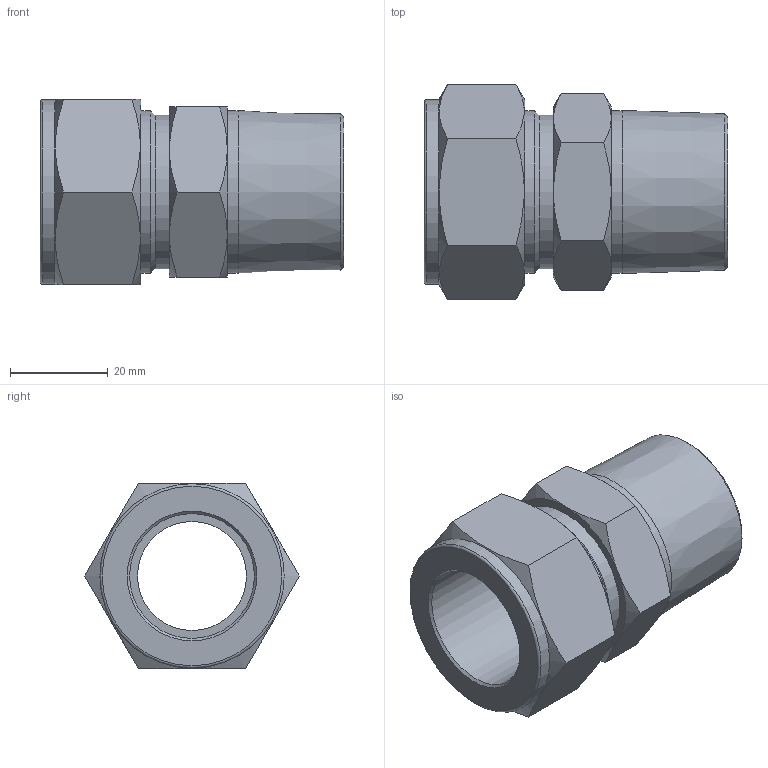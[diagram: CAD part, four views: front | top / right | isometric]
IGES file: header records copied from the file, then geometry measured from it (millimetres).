
Global section: file name: No Iges File Name specified; native system: Autodesk Inventor 2012; preprocessor: AutoDesk Inventor Iges Exporter R2012; author: 硅己绕,,1; organization: 1; date: 20150603.093519; units: millimetre
Bounding box: 62.26 x 43.99 x 38.1 mm (x, y, z)
Volume: 34459.4 mm3; surface area: 13677.1 mm2
Topology: 1 solids, 1 shells, 44 faces, 92 edges, 54 vertices
Faces by surface type: plane 18, cone 17, cylinder 4, revolution 4, torus 1
Full cylindrical faces by diameter (mm): 31.45 x1, 33.34 x1, 33.4 x1, 37.8 x1
